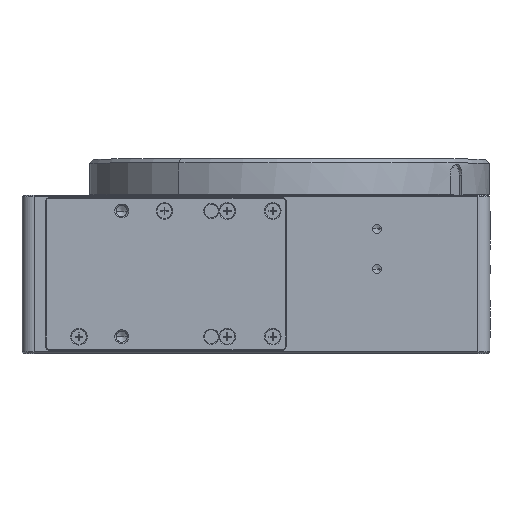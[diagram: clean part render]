
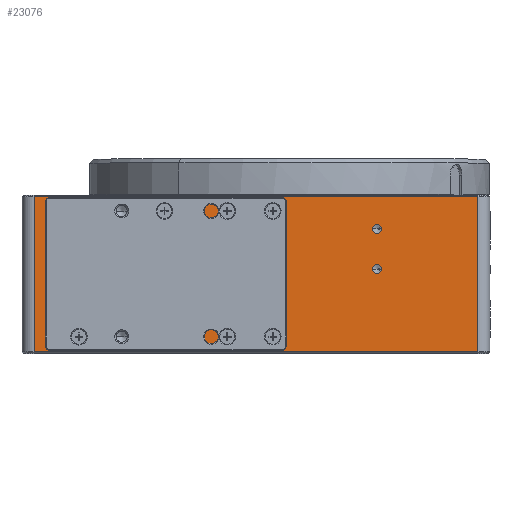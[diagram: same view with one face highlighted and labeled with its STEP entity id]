
A CAD part, top view. The second image highlights one B-rep face of the part: STEP entity #23076.
In plain terms, the highlighted planar face has unit normal (0, 0, 1).
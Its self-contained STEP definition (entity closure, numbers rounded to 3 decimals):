
#735 = DIRECTION ( 'NONE',  ( 0., 0., 1. ) ) ;
#1448 = VERTEX_POINT ( 'NONE', #48633 ) ;
#2062 = CARTESIAN_POINT ( 'NONE',  ( -100., 58.5, 75. ) ) ;
#2612 = ORIENTED_EDGE ( 'NONE', *, *, #83511, .F. ) ;
#3930 = CARTESIAN_POINT ( 'NONE',  ( -95.5, 0.5, 75. ) ) ;
#4788 = LINE ( 'NONE', #40152, #66332 ) ;
#5469 = VECTOR ( 'NONE', #91678, 1000. ) ;
#5558 = CARTESIAN_POINT ( 'NONE',  ( 70.5, 58.5, 75. ) ) ;
#5866 = VECTOR ( 'NONE', #37434, 1000. ) ;
#6154 = LINE ( 'NONE', #41512, #32144 ) ;
#6671 = VECTOR ( 'NONE', #106973, 1000. ) ;
#6915 = DIRECTION ( 'NONE',  ( 1., 0., 0. ) ) ;
#7662 = CARTESIAN_POINT ( 'NONE',  ( 34.4, 31.5, 75. ) ) ;
#8220 = FACE_BOUND ( 'NONE', #92770, .T. ) ;
#8963 = EDGE_CURVE ( 'NONE', #26007, #58505, #91161, .T. ) ;
#9452 = CARTESIAN_POINT ( 'NONE',  ( -87.543, 50.45, 75. ) ) ;
#11812 = CARTESIAN_POINT ( 'NONE',  ( -100., 0.5, 75. ) ) ;
#12067 = VERTEX_POINT ( 'NONE', #109261 ) ;
#12247 = LINE ( 'NONE', #47582, #40189 ) ;
#12577 = DIRECTION ( 'NONE',  ( 1., 0., 0. ) ) ;
#13161 = LINE ( 'NONE', #75124, #54519 ) ;
#13953 = ORIENTED_EDGE ( 'NONE', *, *, #37897, .F. ) ;
#15873 = AXIS2_PLACEMENT_3D ( 'NONE', #106486, #27121, #62440 ) ;
#16332 = ORIENTED_EDGE ( 'NONE', *, *, #54154, .F. ) ;
#19384 = DIRECTION ( 'NONE',  ( 0., 1., 0. ) ) ;
#19443 = DIRECTION ( 'NONE',  ( 0., 0., 1. ) ) ;
#20185 = DIRECTION ( 'NONE',  ( 1., 0., 0. ) ) ;
#21046 = LINE ( 'NONE', #56352, #5469 ) ;
#21563 = CARTESIAN_POINT ( 'NONE',  ( -89.5, 11.345, 75. ) ) ;
#22721 = AXIS2_PLACEMENT_3D ( 'NONE', #114259, #34865, #70184 ) ;
#23076 = ADVANCED_FACE ( 'NONE', ( #52233, #87550, #8220, #43572 ), #78901, .F. ) ;
#25952 = VERTEX_POINT ( 'NONE', #59064 ) ;
#26007 = VERTEX_POINT ( 'NONE', #3930 ) ;
#26579 = EDGE_CURVE ( 'NONE', #26007, #104649, #21046, .T. ) ;
#27121 = DIRECTION ( 'NONE',  ( 0., 0., 1. ) ) ;
#30680 = AXIS2_PLACEMENT_3D ( 'NONE', #98789, #19443, #54735 ) ;
#31080 = DIRECTION ( 'NONE',  ( 1., 0., 0. ) ) ;
#32006 = EDGE_LOOP ( 'NONE', ( #37769, #61084, #73269, #68047 ) ) ;
#32144 = VECTOR ( 'NONE', #76834, 1000. ) ;
#32699 = EDGE_CURVE ( 'NONE', #80656, #107721, #56603, .T. ) ;
#32892 = EDGE_CURVE ( 'NONE', #25952, #82666, #6154, .T. ) ;
#34865 = DIRECTION ( 'NONE',  ( 0., 0., -1. ) ) ;
#35953 = VERTEX_POINT ( 'NONE', #9452 ) ;
#36102 = DIRECTION ( 'NONE',  ( 0., -1., 0. ) ) ;
#36304 = LINE ( 'NONE', #71621, #6671 ) ;
#37397 = ORIENTED_EDGE ( 'NONE', *, *, #110570, .F. ) ;
#37434 = DIRECTION ( 'NONE',  ( 1., 0., 0. ) ) ;
#37769 = ORIENTED_EDGE ( 'NONE', *, *, #8963, .T. ) ;
#37897 = EDGE_CURVE ( 'NONE', #35953, #25952, #13161, .T. ) ;
#40152 = CARTESIAN_POINT ( 'NONE',  ( -89.5, 11.345, 75. ) ) ;
#40189 = VECTOR ( 'NONE', #82891, 1000. ) ;
#41512 = CARTESIAN_POINT ( 'NONE',  ( -89.5, 59., 75. ) ) ;
#41930 = ORIENTED_EDGE ( 'NONE', *, *, #89945, .F. ) ;
#43572 = FACE_BOUND ( 'NONE', #103103, .T. ) ;
#43622 = EDGE_CURVE ( 'NONE', #84185, #60689, #63389, .T. ) ;
#43661 = AXIS2_PLACEMENT_3D ( 'NONE', #80108, #735, #36102 ) ;
#43733 = CARTESIAN_POINT ( 'NONE',  ( -32.06, 50.45, 75. ) ) ;
#45074 = AXIS2_PLACEMENT_3D ( 'NONE', #64199, #99531, #20185 ) ;
#46022 = CARTESIAN_POINT ( 'NONE',  ( -32.06, 8.55, 75. ) ) ;
#46282 = EDGE_CURVE ( 'NONE', #104649, #98392, #81410, .T. ) ;
#47161 = DIRECTION ( 'NONE',  ( 1., 0., 0. ) ) ;
#47415 = EDGE_CURVE ( 'NONE', #82666, #80656, #4788, .T. ) ;
#47582 = CARTESIAN_POINT ( 'NONE',  ( 70.5, 59., 75. ) ) ;
#48177 = ORIENTED_EDGE ( 'NONE', *, *, #56353, .F. ) ;
#48434 = CIRCLE ( 'NONE', #113223, 37.2 ) ;
#48633 = CARTESIAN_POINT ( 'NONE',  ( 31.1, 31.5, 75. ) ) ;
#49073 = VECTOR ( 'NONE', #47161, 1000. ) ;
#50938 = CARTESIAN_POINT ( 'NONE',  ( 32.75, 31.5, 75. ) ) ;
#52233 = FACE_OUTER_BOUND ( 'NONE', #32006, .T. ) ;
#53423 = CARTESIAN_POINT ( 'NONE',  ( 70.5, 0.5, 75. ) ) ;
#54154 = EDGE_CURVE ( 'NONE', #60689, #86920, #48434, .T. ) ;
#54519 = VECTOR ( 'NONE', #110513, 1000. ) ;
#54735 = DIRECTION ( 'NONE',  ( 1., 0., 0. ) ) ;
#56352 = CARTESIAN_POINT ( 'NONE',  ( -95.5, 59., 75. ) ) ;
#56353 = EDGE_CURVE ( 'NONE', #12067, #90726, #65809, .T. ) ;
#56603 = LINE ( 'NONE', #91929, #78359 ) ;
#56669 = EDGE_CURVE ( 'NONE', #107721, #84185, #93568, .T. ) ;
#58505 = VERTEX_POINT ( 'NONE', #53423 ) ;
#59064 = CARTESIAN_POINT ( 'NONE',  ( -89.5, 47.655, 75. ) ) ;
#59213 = VECTOR ( 'NONE', #19384, 1000. ) ;
#60689 = VERTEX_POINT ( 'NONE', #104953 ) ;
#61084 = ORIENTED_EDGE ( 'NONE', *, *, #79477, .F. ) ;
#62440 = DIRECTION ( 'NONE',  ( 1., 0., 0. ) ) ;
#63389 = LINE ( 'NONE', #98734, #59213 ) ;
#63623 = CARTESIAN_POINT ( 'NONE',  ( -30.6, 10.872, 75. ) ) ;
#64199 = CARTESIAN_POINT ( 'NONE',  ( 32.75, 31.5, 75. ) ) ;
#65809 = CIRCLE ( 'NONE', #15873, 1.65 ) ;
#66332 = VECTOR ( 'NONE', #75464, 1000. ) ;
#68047 = ORIENTED_EDGE ( 'NONE', *, *, #26579, .F. ) ;
#70184 = DIRECTION ( 'NONE',  ( -1., 0., 0. ) ) ;
#71621 = CARTESIAN_POINT ( 'NONE',  ( -100., 50.45, 75. ) ) ;
#73269 = ORIENTED_EDGE ( 'NONE', *, *, #46282, .F. ) ;
#75065 = CARTESIAN_POINT ( 'NONE',  ( -62.8, 29.5, 75. ) ) ;
#75124 = CARTESIAN_POINT ( 'NONE',  ( -87.543, 50.45, 75. ) ) ;
#75464 = DIRECTION ( 'NONE',  ( 0.574, -0.819, 0. ) ) ;
#76834 = DIRECTION ( 'NONE',  ( 0., -1., 0. ) ) ;
#77728 = CIRCLE ( 'NONE', #92505, 1.65 ) ;
#78359 = VECTOR ( 'NONE', #12577, 1000. ) ;
#78901 = PLANE ( 'NONE',  #22721 ) ;
#79477 = EDGE_CURVE ( 'NONE', #98392, #58505, #12247, .T. ) ;
#80108 = CARTESIAN_POINT ( 'NONE',  ( -62.8, 29.5, 75. ) ) ;
#80594 = CIRCLE ( 'NONE', #30680, 1.65 ) ;
#80656 = VERTEX_POINT ( 'NONE', #111735 ) ;
#81118 = EDGE_LOOP ( 'NONE', ( #37397, #2612 ) ) ;
#81410 = LINE ( 'NONE', #2062, #5866 ) ;
#82666 = VERTEX_POINT ( 'NONE', #21563 ) ;
#82891 = DIRECTION ( 'NONE',  ( 0., -1., 0. ) ) ;
#83511 = EDGE_CURVE ( 'NONE', #1448, #93595, #94998, .T. ) ;
#84185 = VERTEX_POINT ( 'NONE', #63623 ) ;
#86263 = DIRECTION ( 'NONE',  ( 0., 0., 1. ) ) ;
#86920 = VERTEX_POINT ( 'NONE', #43733 ) ;
#87550 = FACE_BOUND ( 'NONE', #81118, .T. ) ;
#88300 = ORIENTED_EDGE ( 'NONE', *, *, #32699, .F. ) ;
#89328 = CARTESIAN_POINT ( 'NONE',  ( 31.1, 46.5, 75. ) ) ;
#89945 = EDGE_CURVE ( 'NONE', #86920, #35953, #36304, .T. ) ;
#90726 = VERTEX_POINT ( 'NONE', #89328 ) ;
#91161 = LINE ( 'NONE', #11812, #49073 ) ;
#91678 = DIRECTION ( 'NONE',  ( 0., 1., 0. ) ) ;
#91929 = CARTESIAN_POINT ( 'NONE',  ( -100., 8.55, 75. ) ) ;
#92505 = AXIS2_PLACEMENT_3D ( 'NONE', #50938, #86263, #6915 ) ;
#92770 = EDGE_LOOP ( 'NONE', ( #48177, #105235 ) ) ;
#93568 = CIRCLE ( 'NONE', #43661, 37.2 ) ;
#93595 = VERTEX_POINT ( 'NONE', #7662 ) ;
#94780 = ORIENTED_EDGE ( 'NONE', *, *, #47415, .F. ) ;
#94998 = CIRCLE ( 'NONE', #45074, 1.65 ) ;
#98392 = VERTEX_POINT ( 'NONE', #5558 ) ;
#98659 = EDGE_CURVE ( 'NONE', #90726, #12067, #80594, .T. ) ;
#98734 = CARTESIAN_POINT ( 'NONE',  ( -30.6, 59., 75. ) ) ;
#98789 = CARTESIAN_POINT ( 'NONE',  ( 32.75, 46.5, 75. ) ) ;
#99531 = DIRECTION ( 'NONE',  ( 0., 0., 1. ) ) ;
#103103 = EDGE_LOOP ( 'NONE', ( #16332, #109374, #106342, #88300, #94780, #103731, #13953, #41930 ) ) ;
#103731 = ORIENTED_EDGE ( 'NONE', *, *, #32892, .F. ) ;
#104649 = VERTEX_POINT ( 'NONE', #105063 ) ;
#104953 = CARTESIAN_POINT ( 'NONE',  ( -30.6, 48.128, 75. ) ) ;
#105063 = CARTESIAN_POINT ( 'NONE',  ( -95.5, 58.5, 75. ) ) ;
#105235 = ORIENTED_EDGE ( 'NONE', *, *, #98659, .F. ) ;
#106342 = ORIENTED_EDGE ( 'NONE', *, *, #56669, .F. ) ;
#106486 = CARTESIAN_POINT ( 'NONE',  ( 32.75, 46.5, 75. ) ) ;
#106973 = DIRECTION ( 'NONE',  ( -1., 0., 0. ) ) ;
#107721 = VERTEX_POINT ( 'NONE', #46022 ) ;
#109261 = CARTESIAN_POINT ( 'NONE',  ( 34.4, 46.5, 75. ) ) ;
#109374 = ORIENTED_EDGE ( 'NONE', *, *, #43622, .F. ) ;
#110451 = DIRECTION ( 'NONE',  ( 0., 0., 1. ) ) ;
#110513 = DIRECTION ( 'NONE',  ( -0.574, -0.819, 0. ) ) ;
#110570 = EDGE_CURVE ( 'NONE', #93595, #1448, #77728, .T. ) ;
#111735 = CARTESIAN_POINT ( 'NONE',  ( -87.543, 8.55, 75. ) ) ;
#113223 = AXIS2_PLACEMENT_3D ( 'NONE', #75065, #110451, #31080 ) ;
#114259 = CARTESIAN_POINT ( 'NONE',  ( -100., 59., 75. ) ) ;
